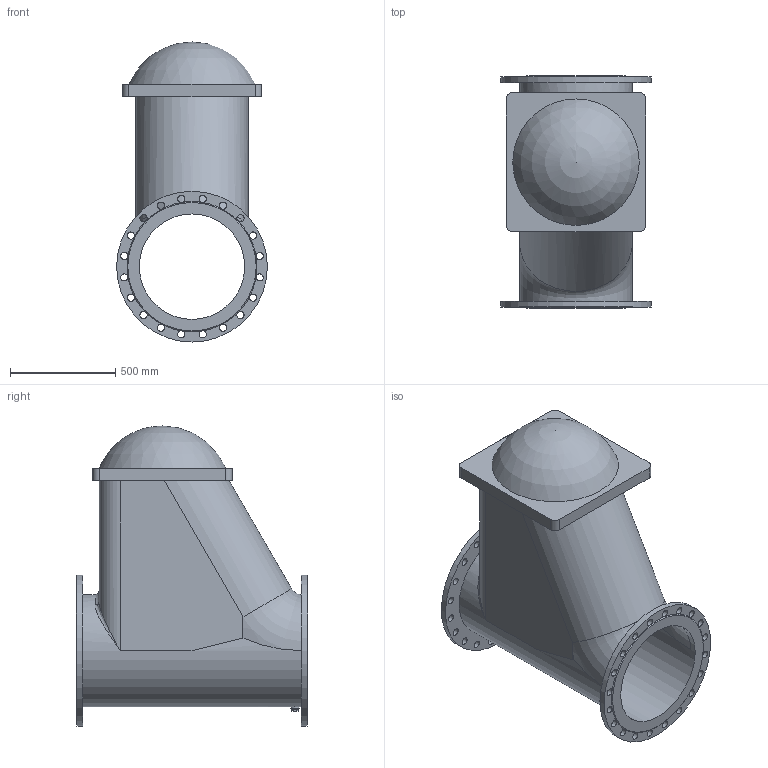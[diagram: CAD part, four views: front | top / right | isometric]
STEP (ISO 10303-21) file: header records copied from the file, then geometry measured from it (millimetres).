
FILE_DESCRIPTION(('STEP AP203'), '1');
FILE_NAME('Êëàïàí îáðàòíûé øàðîâîé ôëàíöåâûé 012F.Z DN500 PN16', '', ('UNSPECIFIED'), ('UNSPECIFIED'), 'ASCON STEP Converter 1.6', 'ASCON Math Kernel', '');
FILE_SCHEMA(('CONFIG_CONTROL_DESIGN'));
Length unit declared in the file: millimetre
Bounding box: 715 x 1100 x 1423.5 mm (x, y, z)
Volume: 254061979.4 mm3; surface area: 7188399.9 mm2
Topology: 1 solids, 1 shells, 116 faces, 392 edges, 244 vertices
Faces by surface type: cylinder 55, plane 53, torus 3, bspline 2, cone 2, sphere 1
Full cylindrical faces by diameter (mm): 32 x1, 34 x40, 40 x1, 500 x1, 532 x1, 715 x2
Entity records: 6485 total; most frequent: CARTESIAN_POINT 2095, DIRECTION 760, ORIENTED_EDGE 678, AXIS2_PLACEMENT_3D 351, EDGE_CURVE 339, VERTEX_POINT 243, CIRCLE 236, EDGE_LOOP 216
